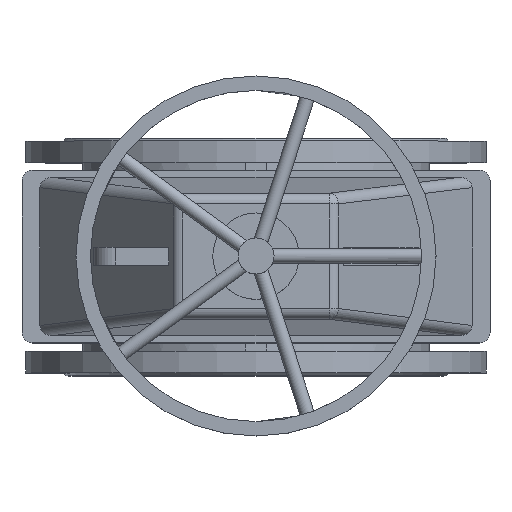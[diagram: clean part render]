
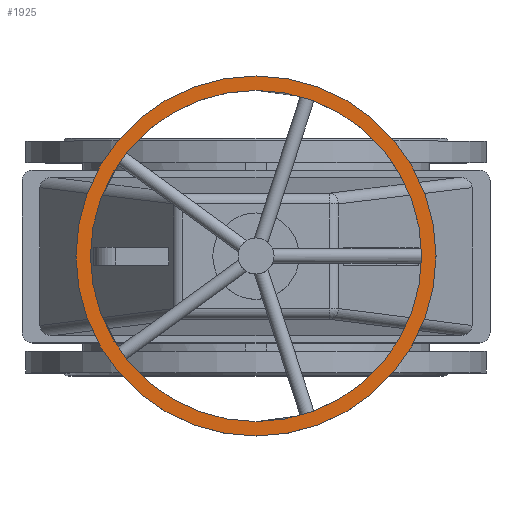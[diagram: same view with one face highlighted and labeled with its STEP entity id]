
A CAD part, top view. The second image highlights one B-rep face of the part: STEP entity #1925.
In plain terms, the highlighted planar face has unit normal (0, 0, 1).
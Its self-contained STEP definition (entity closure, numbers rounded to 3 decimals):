
#1925=ADVANCED_FACE('',(#4552,#4554),#4556,.T.);
#4552=FACE_BOUND('',#4553,.T.);
#4553=EDGE_LOOP('',(#5529));
#4554=FACE_BOUND('',#4555,.T.);
#4555=EDGE_LOOP('',(#5530));
#4556=PLANE('',#4557);
#4557=AXIS2_PLACEMENT_3D('',#4558,#4559,#4560);
#4558=CARTESIAN_POINT('',(0.,0.,946.5));
#4559=DIRECTION('',(0.,0.,1.));
#4560=DIRECTION('',(0.,-1.,0.));
#5529=ORIENTED_EDGE('',*,*,#6011,.T.);
#5530=ORIENTED_EDGE('',*,*,#6009,.T.);
#6009=EDGE_CURVE('',#6823,#6823,#6824,.F.);
#6011=EDGE_CURVE('',#6827,#6827,#6828,.T.);
#6823=VERTEX_POINT('',#10321);
#6824=CIRCLE('',#10322,230.);
#6827=VERTEX_POINT('',#10331);
#6828=CIRCLE('',#10332,250.);
#10321=CARTESIAN_POINT('',(0.,-230.,946.5));
#10322=AXIS2_PLACEMENT_3D('',#10323,#10324,#10325);
#10323=CARTESIAN_POINT('',(0.,0.,946.5));
#10324=DIRECTION('',(0.,0.,1.));
#10325=DIRECTION('',(0.,-1.,0.));
#10331=CARTESIAN_POINT('',(0.,-250.,946.5));
#10332=AXIS2_PLACEMENT_3D('',#10333,#10334,#10335);
#10333=CARTESIAN_POINT('',(0.,0.,946.5));
#10334=DIRECTION('',(0.,0.,1.));
#10335=DIRECTION('',(0.,-1.,0.));
